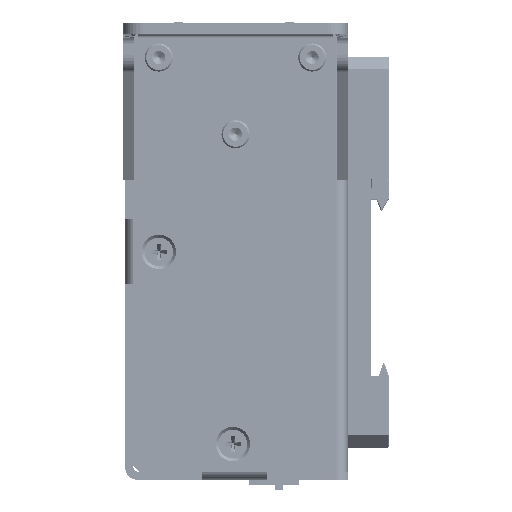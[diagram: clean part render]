
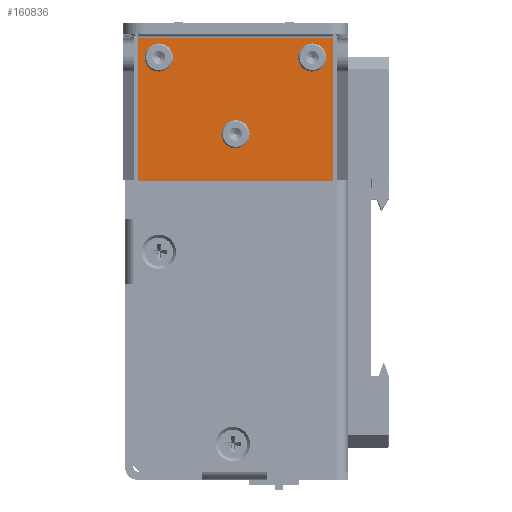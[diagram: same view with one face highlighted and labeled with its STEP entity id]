
A CAD part, left-side view. The second image highlights one B-rep face of the part: STEP entity #160836.
In plain terms, the highlighted planar face has unit normal (-1, 0, 0).
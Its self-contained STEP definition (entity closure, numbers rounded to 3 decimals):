
#480 = EDGE_LOOP ( 'NONE', ( #321679, #365165, #378982 ) ) ;
#5758 = LINE ( 'NONE', #87559, #330495 ) ;
#6345 = AXIS2_PLACEMENT_3D ( 'NONE', #369905, #307539, #367207 ) ;
#9420 = ORIENTED_EDGE ( 'NONE', *, *, #291595, .T. ) ;
#10674 = ORIENTED_EDGE ( 'NONE', *, *, #316198, .T. ) ;
#12304 = VERTEX_POINT ( 'NONE', #199849 ) ;
#25931 = AXIS2_PLACEMENT_3D ( 'NONE', #56205, #206636, #329985 ) ;
#27706 = DIRECTION ( 'NONE',  ( 0., -1., 0. ) ) ;
#29528 = CIRCLE ( 'NONE', #54951, 1.6 ) ;
#31611 = FACE_BOUND ( 'NONE', #480, .T. ) ;
#33613 = ORIENTED_EDGE ( 'NONE', *, *, #301439, .T. ) ;
#33638 = AXIS2_PLACEMENT_3D ( 'NONE', #78250, #137654, #64192 ) ;
#38066 = DIRECTION ( 'NONE',  ( 1., 0., 0. ) ) ;
#39026 = VERTEX_POINT ( 'NONE', #283855 ) ;
#51059 = FACE_BOUND ( 'NONE', #263335, .T. ) ;
#52874 = CIRCLE ( 'NONE', #202784, 1.6 ) ;
#54951 = AXIS2_PLACEMENT_3D ( 'NONE', #282572, #344956, #128126 ) ;
#56205 = CARTESIAN_POINT ( 'NONE',  ( -92.91, 1.627, 22.915 ) ) ;
#57201 = CARTESIAN_POINT ( 'NONE',  ( -92.91, 15.027, 37.915 ) ) ;
#63349 = DIRECTION ( 'NONE',  ( 1., 0., 0. ) ) ;
#64192 = DIRECTION ( 'NONE',  ( 0., -1., 0. ) ) ;
#73142 = CIRCLE ( 'NONE', #6345, 1.6 ) ;
#74962 = DIRECTION ( 'NONE',  ( 1., 0., 0. ) ) ;
#75633 = VECTOR ( 'NONE', #27706, 1000. ) ;
#77818 = CARTESIAN_POINT ( 'NONE',  ( -92.91, -13.373, 36.315 ) ) ;
#78250 = CARTESIAN_POINT ( 'NONE',  ( -92.91, -13.373, 37.915 ) ) ;
#83059 = DIRECTION ( 'NONE',  ( 1., 0., 0. ) ) ;
#83150 = CARTESIAN_POINT ( 'NONE',  ( -92.91, -17.46, 13.711 ) ) ;
#87559 = CARTESIAN_POINT ( 'NONE',  ( -92.91, 20.714, 42.497 ) ) ;
#88059 = EDGE_CURVE ( 'NONE', #12304, #266805, #177280, .T. ) ;
#95689 = CIRCLE ( 'NONE', #33638, 1.6 ) ;
#96505 = VERTEX_POINT ( 'NONE', #263685 ) ;
#114152 = DIRECTION ( 'NONE',  ( 0., -1., 0. ) ) ;
#114652 = VERTEX_POINT ( 'NONE', #148381 ) ;
#115500 = CARTESIAN_POINT ( 'NONE',  ( -92.91, 1.627, 22.915 ) ) ;
#118383 = CARTESIAN_POINT ( 'NONE',  ( -92.91, 20.714, 13.711 ) ) ;
#123712 = FACE_BOUND ( 'NONE', #331812, .T. ) ;
#124578 = AXIS2_PLACEMENT_3D ( 'NONE', #378213, #38066, #254802 ) ;
#128126 = DIRECTION ( 'NONE',  ( 0., -1., 0. ) ) ;
#129283 = ORIENTED_EDGE ( 'NONE', *, *, #275868, .T. ) ;
#129363 = VERTEX_POINT ( 'NONE', #165719 ) ;
#137654 = DIRECTION ( 'NONE',  ( 1., 0., 0. ) ) ;
#137922 = VERTEX_POINT ( 'NONE', #232239 ) ;
#145931 = CIRCLE ( 'NONE', #305648, 1.6 ) ;
#148381 = CARTESIAN_POINT ( 'NONE',  ( -92.91, 20.714, 13.711 ) ) ;
#154999 = ORIENTED_EDGE ( 'NONE', *, *, #339678, .T. ) ;
#155571 = CARTESIAN_POINT ( 'NONE',  ( -92.91, -13.373, 37.915 ) ) ;
#158015 = EDGE_LOOP ( 'NONE', ( #199556, #165781, #33613, #129283 ) ) ;
#160836 = ADVANCED_FACE ( 'NONE', ( #51059, #123712, #31611, #196490 ), #180851, .T. ) ;
#165719 = CARTESIAN_POINT ( 'NONE',  ( -92.91, 1.627, 24.515 ) ) ;
#165781 = ORIENTED_EDGE ( 'NONE', *, *, #387678, .T. ) ;
#171156 = EDGE_CURVE ( 'NONE', #129363, #225611, #199712, .T. ) ;
#177280 = CIRCLE ( 'NONE', #389322, 1.6 ) ;
#178178 = DIRECTION ( 'NONE',  ( -1., 0., 0. ) ) ;
#180851 = PLANE ( 'NONE',  #372121 ) ;
#196490 = FACE_OUTER_BOUND ( 'NONE', #158015, .T. ) ;
#199556 = ORIENTED_EDGE ( 'NONE', *, *, #260903, .T. ) ;
#199712 = CIRCLE ( 'NONE', #25931, 1.6 ) ;
#199849 = CARTESIAN_POINT ( 'NONE',  ( -92.91, -13.373, 39.515 ) ) ;
#202784 = AXIS2_PLACEMENT_3D ( 'NONE', #329997, #392387, #298824 ) ;
#204279 = EDGE_CURVE ( 'NONE', #137922, #96505, #73142, .T. ) ;
#206636 = DIRECTION ( 'NONE',  ( 1., 0., 0. ) ) ;
#217376 = CARTESIAN_POINT ( 'NONE',  ( -92.91, 20.714, 13.711 ) ) ;
#225611 = VERTEX_POINT ( 'NONE', #261369 ) ;
#226644 = AXIS2_PLACEMENT_3D ( 'NONE', #351476, #74962, #228192 ) ;
#228192 = DIRECTION ( 'NONE',  ( 0., -1., 0. ) ) ;
#228487 = DIRECTION ( 'NONE',  ( 0., 1., 0. ) ) ;
#232239 = CARTESIAN_POINT ( 'NONE',  ( -92.91, 16.627, 36.315 ) ) ;
#232703 = CARTESIAN_POINT ( 'NONE',  ( -92.91, -17.46, 13.711 ) ) ;
#236410 = VERTEX_POINT ( 'NONE', #57201 ) ;
#243392 = VECTOR ( 'NONE', #228487, 1000. ) ;
#243844 = VERTEX_POINT ( 'NONE', #263362 ) ;
#246098 = VERTEX_POINT ( 'NONE', #77818 ) ;
#247162 = CARTESIAN_POINT ( 'NONE',  ( -92.91, 1.627, 21.315 ) ) ;
#254802 = DIRECTION ( 'NONE',  ( 0., -1., 0. ) ) ;
#260903 = EDGE_CURVE ( 'NONE', #243844, #39026, #282243, .T. ) ;
#261094 = VECTOR ( 'NONE', #299985, 1000. ) ;
#261369 = CARTESIAN_POINT ( 'NONE',  ( -92.91, 0.027, 22.915 ) ) ;
#261489 = EDGE_CURVE ( 'NONE', #236410, #137922, #29528, .T. ) ;
#263335 = EDGE_LOOP ( 'NONE', ( #297610, #10674, #154999 ) ) ;
#263362 = CARTESIAN_POINT ( 'NONE',  ( -92.91, -17.46, 41.684 ) ) ;
#263685 = CARTESIAN_POINT ( 'NONE',  ( -92.91, 16.627, 39.515 ) ) ;
#266805 = VERTEX_POINT ( 'NONE', #289306 ) ;
#275868 = EDGE_CURVE ( 'NONE', #339005, #243844, #392237, .T. ) ;
#280110 = DIRECTION ( 'NONE',  ( 0., -1., 0. ) ) ;
#282243 = LINE ( 'NONE', #288072, #243392 ) ;
#282572 = CARTESIAN_POINT ( 'NONE',  ( -92.91, 16.627, 37.915 ) ) ;
#283763 = ORIENTED_EDGE ( 'NONE', *, *, #261489, .T. ) ;
#283855 = CARTESIAN_POINT ( 'NONE',  ( -92.91, 20.714, 41.684 ) ) ;
#288072 = CARTESIAN_POINT ( 'NONE',  ( -92.91, -17.46, 41.684 ) ) ;
#289306 = CARTESIAN_POINT ( 'NONE',  ( -92.91, -14.973, 37.915 ) ) ;
#291595 = EDGE_CURVE ( 'NONE', #96505, #236410, #401552, .T. ) ;
#297610 = ORIENTED_EDGE ( 'NONE', *, *, #171156, .T. ) ;
#298824 = DIRECTION ( 'NONE',  ( 0., -1., 0. ) ) ;
#298880 = LINE ( 'NONE', #217376, #75633 ) ;
#299985 = DIRECTION ( 'NONE',  ( 0., 0., 1. ) ) ;
#300337 = EDGE_CURVE ( 'NONE', #266805, #246098, #95689, .T. ) ;
#301439 = EDGE_CURVE ( 'NONE', #114652, #339005, #298880, .T. ) ;
#305648 = AXIS2_PLACEMENT_3D ( 'NONE', #115500, #83059, #114152 ) ;
#307539 = DIRECTION ( 'NONE',  ( 1., 0., 0. ) ) ;
#316198 = EDGE_CURVE ( 'NONE', #225611, #372596, #52874, .T. ) ;
#321679 = ORIENTED_EDGE ( 'NONE', *, *, #88059, .T. ) ;
#329985 = DIRECTION ( 'NONE',  ( 0., -1., 0. ) ) ;
#329997 = CARTESIAN_POINT ( 'NONE',  ( -92.91, 1.627, 22.915 ) ) ;
#330495 = VECTOR ( 'NONE', #338211, 1000. ) ;
#331812 = EDGE_LOOP ( 'NONE', ( #9420, #283763, #376063 ) ) ;
#332611 = DIRECTION ( 'NONE',  ( 0., -1., 0. ) ) ;
#338211 = DIRECTION ( 'NONE',  ( 0., 0., -1. ) ) ;
#339005 = VERTEX_POINT ( 'NONE', #232703 ) ;
#339678 = EDGE_CURVE ( 'NONE', #372596, #129363, #145931, .T. ) ;
#344956 = DIRECTION ( 'NONE',  ( 1., 0., 0. ) ) ;
#345288 = CIRCLE ( 'NONE', #124578, 1.6 ) ;
#351476 = CARTESIAN_POINT ( 'NONE',  ( -92.91, 16.627, 37.915 ) ) ;
#365165 = ORIENTED_EDGE ( 'NONE', *, *, #300337, .T. ) ;
#367207 = DIRECTION ( 'NONE',  ( 0., -1., 0. ) ) ;
#369905 = CARTESIAN_POINT ( 'NONE',  ( -92.91, 16.627, 37.915 ) ) ;
#372121 = AXIS2_PLACEMENT_3D ( 'NONE', #118383, #178178, #332611 ) ;
#372596 = VERTEX_POINT ( 'NONE', #247162 ) ;
#376063 = ORIENTED_EDGE ( 'NONE', *, *, #204279, .T. ) ;
#378213 = CARTESIAN_POINT ( 'NONE',  ( -92.91, -13.373, 37.915 ) ) ;
#378982 = ORIENTED_EDGE ( 'NONE', *, *, #386917, .T. ) ;
#386917 = EDGE_CURVE ( 'NONE', #246098, #12304, #345288, .T. ) ;
#387678 = EDGE_CURVE ( 'NONE', #39026, #114652, #5758, .T. ) ;
#389322 = AXIS2_PLACEMENT_3D ( 'NONE', #155571, #63349, #280110 ) ;
#392237 = LINE ( 'NONE', #83150, #261094 ) ;
#392387 = DIRECTION ( 'NONE',  ( 1., 0., 0. ) ) ;
#401552 = CIRCLE ( 'NONE', #226644, 1.6 ) ;
